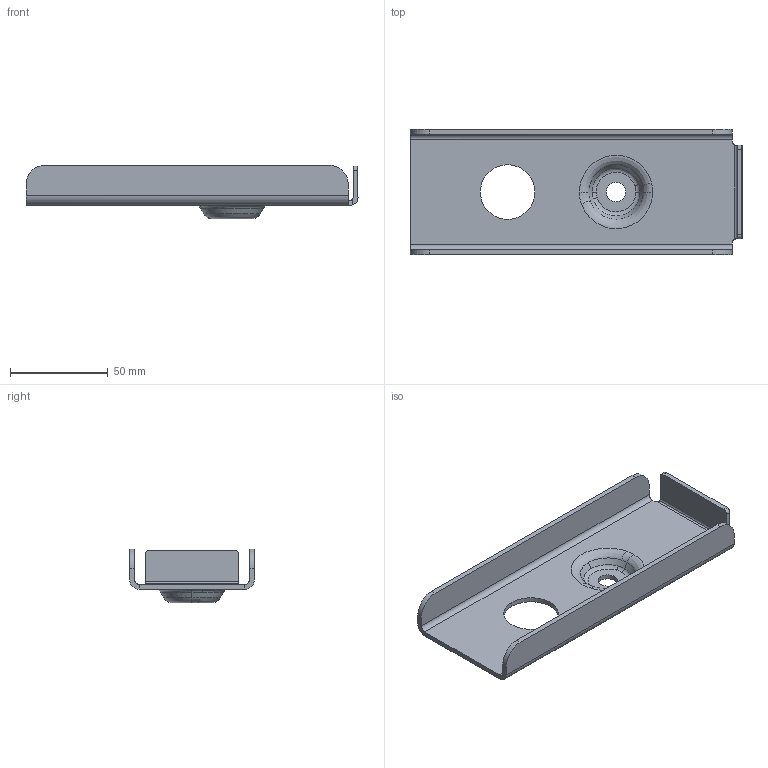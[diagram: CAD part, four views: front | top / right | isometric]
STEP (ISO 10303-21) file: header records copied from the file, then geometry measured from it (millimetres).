
FILE_DESCRIPTION(('CATIA V5 STEP Exchange'),'2;1');
FILE_NAME('D:\杨逍（新）\06-李燕龙\2023.1.9-G3新开件2D图纸-李燕龙\钣金单件图纸\SHT0015324-G3副司机座椅底支架后连接钣金\SHT0015324.stp','2023-01-11T06:38:27+00:00',('none'),('none'),'CATIA Version 5 Release 20 GA (IN-10)','CATIA V5 STEP AP214','none');
FILE_SCHEMA(('AUTOMOTIVE_DESIGN { 1 0 10303 214 1 1 1 1 }'));
Length unit declared in the file: millimetre
Products named in the file (1): G3副司机座椅底支架后连接钣金
Bounding box: 170 x 64 x 27.5 mm (x, y, z)
Volume: 41245.5 mm3; surface area: 34688.4 mm2
Topology: 1 solids, 1 shells, 67 faces, 169 edges, 106 vertices
Faces by surface type: plane 24, cylinder 21, torus 16, cone 6
Entity records: 5192 total; most frequent: CARTESIAN_POINT 3654, ORIENTED_EDGE 338, DIRECTION 257, EDGE_CURVE 169, AXIS2_PLACEMENT_3D 125, VERTEX_POINT 106, EDGE_LOOP 73, VECTOR 71
